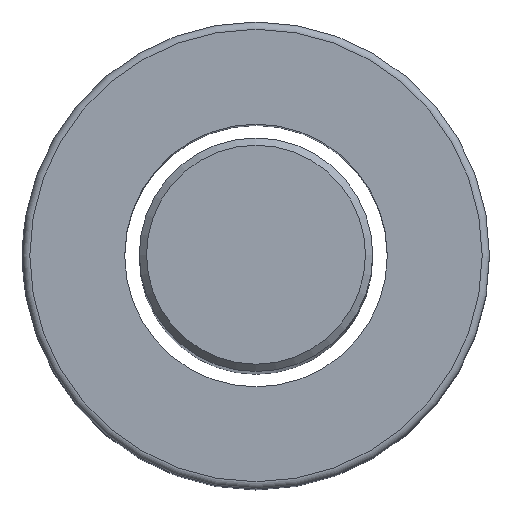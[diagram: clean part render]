
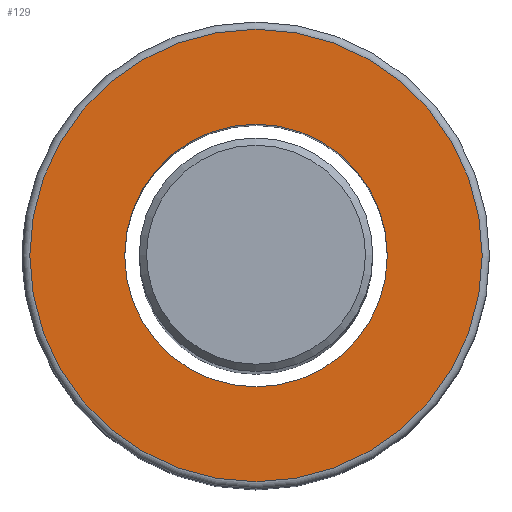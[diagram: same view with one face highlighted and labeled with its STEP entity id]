
A CAD part, top view. The second image highlights one B-rep face of the part: STEP entity #129.
In plain terms, the highlighted planar face has unit normal (0, 0, 1) as drawn and (1, 0, 0) by its records, which use the part's own axes.
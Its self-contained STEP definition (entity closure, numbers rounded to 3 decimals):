
#111=PLANE('',#318);
#129=ADVANCED_FACE('',(#165,#166),#111,.F.);
#165=FACE_BOUND('',#199,.T.);
#166=FACE_BOUND('',#200,.T.);
#199=EDGE_LOOP('',(#233));
#200=EDGE_LOOP('',(#234));
#233=ORIENTED_EDGE('',*,*,#258,.F.);
#234=ORIENTED_EDGE('',*,*,#270,.T.);
#241=VERTEX_POINT('',#404);
#253=VERTEX_POINT('',#551);
#258=EDGE_CURVE('',#241,#241,#275,.T.);
#270=EDGE_CURVE('',#253,#253,#285,.T.);
#275=CIRCLE('',#297,9.);
#285=CIRCLE('',#316,15.5);
#297=AXIS2_PLACEMENT_3D('',#403,#342,#343);
#316=AXIS2_PLACEMENT_3D('',#550,#380,#381);
#318=AXIS2_PLACEMENT_3D('',#553,#384,#385);
#342=DIRECTION('',(1.,0.,0.));
#343=DIRECTION('',(0.,0.,-1.));
#380=DIRECTION('',(1.,0.,0.));
#381=DIRECTION('',(0.,0.,-1.));
#384=DIRECTION('',(-1.,0.,0.));
#385=DIRECTION('',(0.,0.,1.));
#403=CARTESIAN_POINT('',(80.,0.,0.));
#404=CARTESIAN_POINT('',(80.,0.,-9.));
#550=CARTESIAN_POINT('',(80.,0.,0.));
#551=CARTESIAN_POINT('',(80.,0.,-15.5));
#553=CARTESIAN_POINT('',(80.,15.5,0.));
